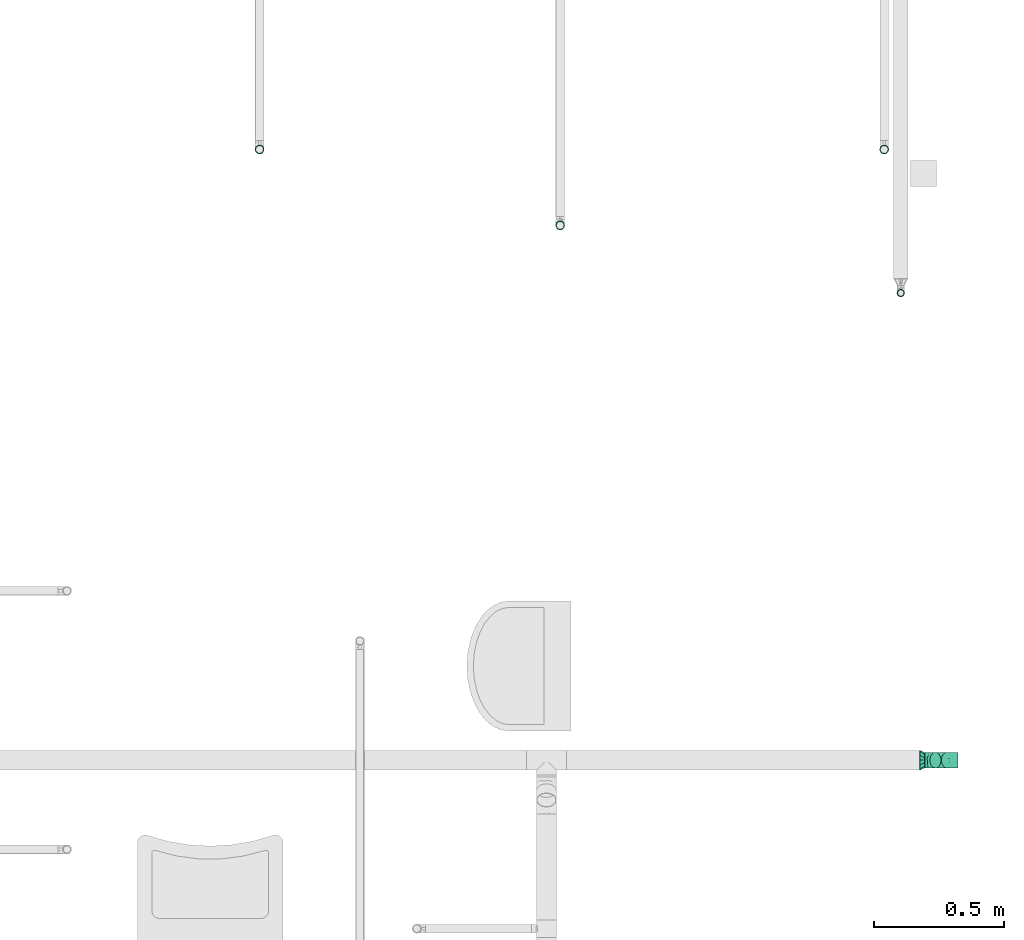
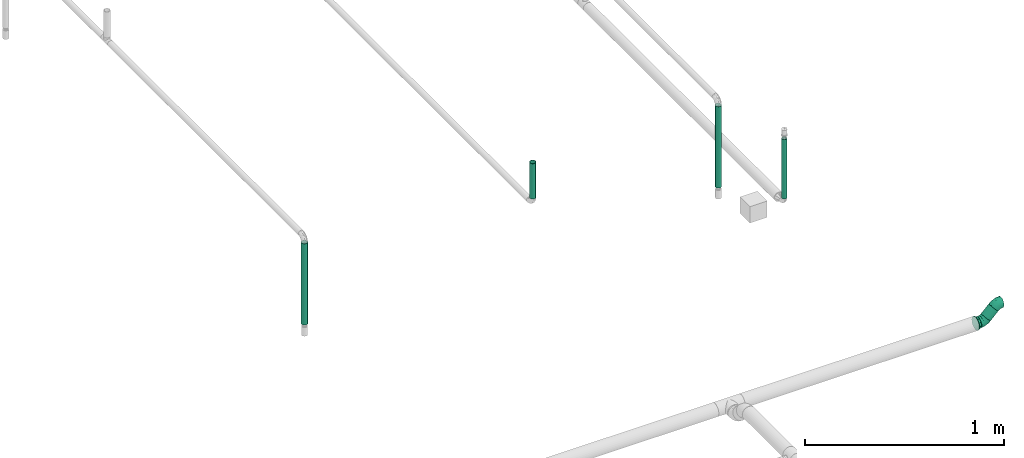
# One storey, part 12 of 95: 5 flow segments, 3 flow fittings.
"""IFC2X3 building model written with IfcOpenShell, lengths in millimetres."""

from ifc_helpers import new_model, entity, si_unit, converted_unit, derived_unit, direction, frame, origin_with_axes, origin_2d_with_axis, place, context, subcontext, project, spatial, hollow_circle, extrude, open_shell, surface_model, source, transform, mapped, type_object, element, save


model = new_model("IFC2X3")

# Units and contexts
model_context = context("Model", 3, precision=0.01, world=frame((0.0, 4.29681676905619e-09, 0.0)), true_north=direction((4.01073788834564e-13, 1.0)))
plan_context = context("Plan", 3, precision=0.01, world=frame((0.0, 4.29681676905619e-09, 0.0)), true_north=direction((4.01073788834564e-13, 1.0)))
body_context = subcontext(model_context, "Body", "Model", "MODEL_VIEW")
ifc_project = project(units=[converted_unit("PLANEANGLEUNIT", "DEGREE", entity("IfcPositiveLengthMeasure", 0.0174532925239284), si_unit("PLANEANGLEUNIT", "RADIAN"), dimensions=[0, 0, 0, 0, 0, 0, 0]), si_unit("AREAUNIT", "SQUARE_METRE"), si_unit("LENGTHUNIT", "METRE", prefix="MILLI"), si_unit("MASSUNIT", "GRAM", prefix="KILO"), si_unit("POWERUNIT", "WATT"), si_unit("PRESSUREUNIT", "PASCAL"), si_unit("FORCEUNIT", "NEWTON", prefix="KILO"), si_unit("ELECTRICVOLTAGEUNIT", "VOLT"), si_unit("ELECTRICCURRENTUNIT", "AMPERE"), si_unit("THERMODYNAMICTEMPERATUREUNIT", "DEGREE_CELSIUS"), si_unit("TIMEUNIT", "SECOND"), si_unit("VOLUMEUNIT", "CUBIC_METRE"), derived_unit("LINEARVELOCITYUNIT", [(si_unit("LENGTHUNIT", "METRE"), 1), (si_unit("TIMEUNIT", "SECOND"), -1)]), derived_unit("VOLUMETRICFLOWRATEUNIT", [(si_unit("VOLUMEUNIT", "CUBIC_METRE"), 1), (si_unit("TIMEUNIT", "SECOND"), -1)]), derived_unit("THERMALTRANSMITTANCEUNIT", [(si_unit("POWERUNIT", "WATT"), 1), (si_unit("THERMODYNAMICTEMPERATUREUNIT", "KELVIN"), -1), (si_unit("AREAUNIT", "SQUARE_METRE"), -1)]), derived_unit("SOUNDPRESSUREUNIT", [(si_unit("PRESSUREUNIT", "PASCAL"), 1)])], contexts=[model_context, plan_context])

# Site, building, storey
site_placement = place(None, frame((0.0, -4.29681676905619e-09, 0.0), z_axis=(0.0, 0.0, 1.0), x_axis=(1.0, 0.0, 0.0)))
site = spatial("IfcSite", under=ifc_project, at=site_placement, CompositionType="ELEMENT")
building_placement = place(site_placement, frame((0.0, 4.29681676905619e-09, 0.0), z_axis=(0.0, 0.0, 1.0), x_axis=(1.0, 0.0, 0.0)))
building = spatial("IfcBuilding", under=site, at=building_placement, Name="mc-building", CompositionType="ELEMENT")
storey_placement = place(building_placement, frame((0.0, 0.0, 210900.0), z_axis=(0.0, 0.0, 1.0), x_axis=(1.0, 0.0, 0.0)))
storey = spatial("IfcBuildingStorey", under=building, at=storey_placement, Name="Nivå F", CompositionType="ELEMENT", Elevation=210900.0)

# Flow fittings
pipe_fitting_type_1 = type_object("IfcPipeFittingType", Name="magi_pipe_fe_elbow_short_001", PredefinedType="BEND")
shared_shape_1 = source(origin_with_axes(), body_context, "Body", "SurfaceModel", [
    surface_model("IfcShellBasedSurfaceModel", [(-25.0185, 15.1, -26.15397), (-25.0185, 7.81634, -29.17096), (-25.0185, 0.0, -30.2), (-25.0185, -29.17096, -7.81634), (-25.0185, -21.35462, 21.35462), (-25.0185, 29.17096, -7.81634), (-25.0185, 26.15397, -15.1), (-25.0185, 21.35462, -21.35462), (-25.0185, -15.1, -26.15397), (-25.0185, -21.35462, -21.35462), (-25.0185, -7.81634, -29.17096), (-25.0185, -26.15397, -15.1), (-25.0185, -30.2, 0.0), (-25.0185, -29.17096, 7.81634), (-25.0185, 30.2, 0.0), (-25.0185, 29.17096, 7.81634), (-25.0185, 26.15397, 15.1), (-25.0185, 7.81634, 29.17096), (-25.0185, 15.1, 26.15397), (-25.0185, 21.35462, 21.35462), (-25.0185, -26.15397, 15.1), (-25.0185, -7.81634, 29.17096), (-25.0185, 0.0, 30.2), (-25.0185, -15.1, 26.15397), (17.69075, 17.69075, -30.2), (12.16377, 23.21773, -29.17096), (7.01344, 28.36806, -26.15397), (32.79075, 2.59075, -21.35462), (-0.8029, 36.1844, -15.1), (-2.93623, 38.31773, -7.81634), (2.59075, 32.79075, -21.35462), (38.31773, -2.93623, -7.81634), (23.21773, 12.16377, -29.17096), (28.36806, 7.01344, -26.15397), (36.1844, -0.8029, -15.1), (38.31773, -2.93623, 7.81634), (39.04538, -3.66387, 0.0), (-3.66387, 39.04538, 0.0), (-2.93623, 38.31773, 7.81634), (-0.8029, 36.1844, 15.1), (12.16377, 23.21773, 29.17096), (2.59075, 32.79075, 21.35462), (7.01344, 28.36806, 26.15397), (32.79075, 2.59075, 21.35462), (36.1844, -0.8029, 15.1), (28.36806, 7.01344, 26.15397), (17.69075, 17.69075, 30.2), (23.21773, 12.16377, 29.17096), (7.69175, -18.56954, 16.82954), (-6.68128, -17.06835, 23.3035), (-9.75195, -23.09728, 17.68326), (-10.0904, -28.23468, 0.0), (-1.56949, -27.11288, 0.0), (-6.446, -27.82271, 5.15694), (23.22791, -9.43658, 17.68326), (-11.96638, -11.07409, 27.60125), (3.10086, -7.48614, 27.22074), (0.89641, 18.1556, 28.1874), (5.45946, 14.29533, 29.76075), (-9.01335, -2.90773, 29.7999), (-2.87243, 6.93466, 30.09388), (-15.13159, 4.18485, 30.01673), (-8.57837, 20.71002, 24.65544), (-13.31812, 25.32715, 19.05823), (16.29207, 0.63094, 27.60125), (-11.60379, 12.56705, 28.23274), (11.65474, -19.76551, 11.90205), (-5.41496, -26.12757, 10.48768), (9.37633, -22.63647, 6.56399), (-12.44104, 30.03533, 12.40746), (24.23164, -15.11562, 5.15694), (27.09992, -12.82994, 0.0), (-12.09644, 32.36015, 6.34538), (22.30394, -14.64603, 10.48768), (8.42948, 4.31732, 29.7999), (16.79352, -7.34476, 23.3035), (-13.46146, 32.49884, 0.0), (5.06901, -12.23767, 24.08282), (9.356, -22.58739, 0.0), (20.2815, -18.0619, 0.0), (-9.01335, -2.90773, -29.7999), (-6.446, -27.82271, -5.15694), (9.37633, -22.63647, -6.56398), (8.42948, 4.31732, -29.7999), (-13.47181, 12.20409, -28.1874), (-13.96874, 6.2479, -29.76075), (-8.49167, 27.32633, -19.05823), (16.79352, -7.34476, -23.3035), (-12.44104, 30.03533, -12.40746), (22.30394, -14.64603, -10.48768), (-14.32861, 31.43556, -6.34538), (-0.68112, 17.09136, -28.23274), (-5.41496, -26.12757, -10.48768), (-8.57837, 20.71002, -24.65544), (-9.75195, -23.09728, -17.68326), (-6.68128, -17.06835, -23.3035), (5.06901, -12.23767, -24.08282), (7.69175, -18.56954, -16.82954), (-11.96638, -11.07409, -27.60125), (16.29207, 0.63094, -27.60125), (3.10086, -7.48614, -27.22074), (24.23164, -15.11562, -5.15694), (7.74051, 13.65879, -30.01673), (5.73518, -22.21747, -11.90205), (23.22791, -9.43658, -17.68326), (-2.87243, 6.93466, -30.09388)], [open_shell([[[0, 1, 2]], [[2, 3, 4]], [[0, 5, 6]], [[7, 0, 6]], [[2, 4, 0]], [[8, 9, 10]], [[9, 2, 10]], [[11, 3, 9]], [[9, 3, 2]], [[12, 13, 3]], [[5, 0, 4]], [[14, 4, 15]], [[16, 15, 17]], [[17, 18, 19]], [[16, 17, 19]], [[17, 15, 4]], [[20, 4, 13]], [[13, 4, 3]], [[21, 22, 23]], [[17, 4, 23]], [[17, 23, 22]], [[14, 5, 4]], [[24, 25, 26]], [[27, 24, 26]], [[28, 29, 26]], [[28, 26, 30]], [[31, 26, 29]], [[32, 27, 33]], [[32, 24, 27]], [[27, 31, 34]], [[26, 31, 27]], [[31, 35, 36]], [[31, 29, 37]], [[37, 38, 39]], [[37, 39, 40]], [[41, 42, 40]], [[41, 40, 39]], [[37, 40, 43]], [[35, 43, 44]], [[35, 37, 43]], [[45, 46, 47]], [[45, 43, 40]], [[46, 45, 40]], [[37, 35, 31]], [[48, 49, 50]], [[51, 52, 53]], [[23, 4, 49]], [[44, 43, 54]], [[55, 49, 56]], [[50, 49, 4]], [[40, 57, 58]], [[21, 23, 55]], [[59, 60, 61]], [[22, 21, 59]], [[19, 62, 63]], [[45, 47, 64]], [[61, 17, 22]], [[18, 65, 62]], [[13, 51, 53]], [[42, 41, 62]], [[66, 67, 68]], [[62, 19, 18]], [[4, 20, 50]], [[16, 63, 69]], [[15, 16, 69]], [[35, 70, 71]], [[72, 14, 15]], [[73, 66, 68]], [[67, 53, 68]], [[18, 17, 65]], [[46, 58, 74]], [[43, 45, 75]], [[39, 38, 69]], [[74, 47, 46]], [[48, 50, 67]], [[43, 75, 54]], [[60, 58, 57]], [[75, 45, 64]], [[20, 67, 50]], [[70, 35, 73]], [[48, 54, 75]], [[61, 65, 17]], [[48, 66, 54]], [[15, 69, 72]], [[20, 13, 67]], [[76, 72, 37]], [[49, 77, 56]], [[38, 72, 69]], [[56, 74, 59]], [[39, 69, 63]], [[56, 64, 74]], [[39, 63, 41]], [[60, 59, 74]], [[40, 42, 57]], [[57, 62, 65]], [[55, 59, 21]], [[16, 19, 63]], [[73, 35, 44]], [[73, 44, 54]], [[77, 48, 75]], [[41, 63, 62]], [[62, 57, 42]], [[60, 57, 65]], [[49, 55, 23]], [[59, 55, 56]], [[74, 64, 47]], [[75, 64, 56]], [[13, 12, 51]], [[68, 52, 78]], [[13, 53, 67]], [[52, 68, 53]], [[70, 68, 79]], [[71, 70, 79]], [[71, 36, 35]], [[68, 70, 73]], [[74, 58, 60]], [[46, 40, 58]], [[59, 61, 22]], [[65, 61, 60]], [[48, 77, 49]], [[75, 56, 77]], [[37, 72, 38]], [[72, 76, 14]], [[54, 66, 73]], [[67, 66, 48]], [[79, 68, 78]], [[10, 2, 80]], [[52, 81, 82]], [[24, 32, 83]], [[84, 85, 1]], [[6, 86, 7]], [[33, 27, 87]], [[88, 86, 6]], [[34, 31, 89]], [[5, 90, 88]], [[26, 25, 91]], [[3, 81, 51]], [[0, 84, 1]], [[81, 3, 92]], [[30, 93, 86]], [[92, 11, 94]], [[94, 9, 95]], [[9, 8, 95]], [[96, 97, 95]], [[3, 11, 92]], [[9, 94, 11]], [[98, 8, 10]], [[99, 83, 32]], [[29, 28, 88]], [[100, 98, 80]], [[14, 76, 90]], [[97, 94, 95]], [[37, 29, 90]], [[100, 80, 83]], [[30, 26, 93]], [[88, 6, 5]], [[28, 86, 88]], [[98, 95, 8]], [[91, 93, 26]], [[85, 80, 2]], [[93, 91, 84]], [[7, 93, 0]], [[31, 71, 101]], [[102, 25, 24]], [[99, 32, 33]], [[103, 89, 82]], [[27, 104, 87]], [[100, 99, 87]], [[27, 34, 104]], [[105, 102, 83]], [[104, 97, 87]], [[105, 83, 80]], [[101, 71, 79]], [[102, 91, 25]], [[105, 85, 84]], [[81, 92, 82]], [[97, 103, 94]], [[87, 96, 100]], [[34, 89, 104]], [[29, 88, 90]], [[97, 104, 89]], [[28, 30, 86]], [[7, 86, 93]], [[93, 84, 0]], [[105, 84, 91]], [[80, 98, 10]], [[95, 98, 100]], [[87, 99, 33]], [[83, 99, 100]], [[51, 81, 52]], [[51, 12, 3]], [[103, 82, 92]], [[101, 82, 89]], [[82, 79, 78]], [[31, 36, 71]], [[82, 101, 79]], [[31, 101, 89]], [[80, 85, 105]], [[2, 1, 85]], [[83, 102, 24]], [[91, 102, 105]], [[97, 96, 87]], [[95, 100, 96]], [[14, 90, 5]], [[90, 76, 37]], [[94, 103, 92]], [[89, 103, 97]], [[52, 82, 78]]])]),
])
for number, where, z_axis, x_axis, name in (
    (1, (536077.5653, 441860.92369, 4310.0), (0.0, -1.0, 0.0), (1.0, 0.0, 0.0), "magi_pipe_fe_elbow_short_001"),
    (2, (536157.5653, 441860.92369, 4390.0), (0.0, 1.0, 0.0), (0.707106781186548, 0.0, 0.707106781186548), "magi_pipe_fe_elbow_short_001"),
):
    element("IfcFlowFitting", number, at=place(storey_placement, frame(where, z_axis=z_axis, x_axis=x_axis)), inside=storey, type_object=pipe_fitting_type_1, Name=name, context=body_context, shape_type="MappedRepresentation", body=[
        mapped(shared_shape_1, transform((0.0, 0.0, 0.0), scale=1.0)),
    ])
pipe_fitting_type_2 = type_object("IfcPipeFittingType", Name="magi_pipe_fe_reducer_centric_short_NOR", PredefinedType="TRANSITION")
shared_shape_2 = source(origin_with_axes(), body_context, "Body", "SurfaceModel", [
    surface_model("IfcShellBasedSurfaceModel", [(-2.0, 9.86101, 36.80177), (-2.0, -38.1, 0.0), (-2.0, 0.0, 38.1), (-2.0, 26.94077, 26.94077), (-2.0, 19.05, 32.99557), (-2.0, 32.99557, 19.05), (-2.0, 36.80177, 9.86101), (-2.0, -9.86101, 36.80177), (-2.0, -26.94077, 26.94077), (-2.0, -19.05, 32.99557), (-2.0, -32.99557, 19.05), (-2.0, -36.80177, 9.86101), (-2.0, 36.80177, -9.86101), (-2.0, -32.99557, -19.05), (-2.0, 9.86101, -36.80177), (-2.0, 32.99557, -19.05), (-2.0, 26.94077, -26.94077), (-2.0, 19.05, -32.99557), (-2.0, -26.94077, -26.94077), (-2.0, -36.80177, -9.86101), (-2.0, -19.05, -32.99557), (-2.0, 0.0, -38.1), (-2.0, -9.86101, -36.80177), (-2.0, 38.1, 0.0), (0.0, 9.86101, -36.80177), (0.0, 19.05, -32.99557), (0.0, 26.94077, -26.94077), (0.0, 36.80177, -9.86101), (0.0, -26.94077, -26.94077), (0.0, 32.99557, -19.05), (0.0, -38.1, 0.0), (0.0, 0.0, -38.1), (0.0, -19.05, -32.99557), (0.0, -9.86101, -36.80177), (0.0, -32.99557, -19.05), (0.0, -36.80177, -9.86101), (0.0, 38.1, 0.0), (0.0, 36.80177, 9.86101), (0.0, 32.99557, 19.05), (0.0, 26.94077, 26.94077), (0.0, 0.0, 38.1), (0.0, 9.86101, 36.80177), (0.0, 19.05, 32.99557), (0.0, -9.86101, 36.80177), (0.0, -32.99557, 19.05), (0.0, -36.80177, 9.86101), (0.0, -26.94077, 26.94077), (0.0, -19.05, 32.99557), (17.8, 7.81634, -29.17096), (17.8, 15.1, -26.15397), (17.8, 21.35462, -21.35462), (17.8, 30.2, 0.0), (17.8, 26.15397, -15.1), (17.8, 29.17096, -7.81634), (17.8, -15.1, -26.15397), (17.8, -29.17096, 7.81634), (17.8, 0.0, -30.2), (17.8, -7.81634, -29.17096), (17.8, -21.35462, -21.35462), (17.8, -29.17096, -7.81634), (17.8, -26.15397, -15.1), (17.8, 29.17096, 7.81634), (17.8, 26.15397, 15.1), (17.8, 21.35462, 21.35462), (17.8, -21.35462, 21.35462), (17.8, 15.1, 26.15397), (17.8, 7.81634, 29.17096), (17.8, 0.0, 30.2), (17.8, -26.15397, 15.1), (17.8, -30.2, 0.0), (17.8, -7.81634, 29.17096), (17.8, -15.1, 26.15397), (15.8, 0.0, 30.2), (15.8, 7.81634, 29.17096), (15.8, 15.1, 26.15397), (15.8, 21.35462, 21.35462), (15.8, 26.15397, 15.1), (15.8, 29.17096, 7.81634), (15.8, -29.17096, 7.81634), (15.8, 30.2, 0.0), (15.8, -7.81634, 29.17096), (15.8, -21.35462, 21.35462), (15.8, -15.1, 26.15397), (15.8, -26.15397, 15.1), (15.8, -30.2, 0.0), (15.8, 29.17096, -7.81634), (15.8, 26.15397, -15.1), (15.8, 21.35462, -21.35462), (15.8, 15.1, -26.15397), (15.8, 7.81634, -29.17096), (15.8, -15.1, -26.15397), (15.8, -29.17096, -7.81634), (15.8, -21.35462, -21.35462), (15.8, -26.15397, -15.1), (15.8, 0.0, -30.2), (15.8, -7.81634, -29.17096), (15.8, -9.33231, 28.72191), (15.8, -24.43231, 17.75111), (15.8, 9.33231, 28.72191), (15.8, 24.43231, 17.75111), (15.8, -9.33231, -28.72191), (15.8, -24.43231, -17.75111), (15.8, 9.33231, -28.72191), (15.8, 24.43231, -17.75111), (15.8, 27.31616, -8.87556), (15.8, 16.88231, -23.23651), (0.0, 35.64327, -9.16863), (0.0, 26.02278, -26.02278), (0.0, -35.64327, -9.16863), (15.8, -16.88231, -23.23651), (15.8, -27.31616, -8.87556), (0.0, -26.02278, -26.02278), (15.8, 0.0, -28.72191), (0.0, 9.525, -35.54778), (0.0, -9.525, -35.54778), (15.8, -27.31616, 8.87556), (15.8, -16.88231, 23.23651), (0.0, -35.64327, 9.16863), (0.0, -26.02278, 26.02278), (0.0, 35.64327, 9.16863), (15.8, 16.88231, 23.23651), (15.8, 27.31616, 8.87556), (0.0, 26.02278, 26.02278), (15.8, 0.0, 28.72191), (0.0, -9.525, 35.54778), (0.0, 9.525, 35.54778)], [open_shell([[[0, 1, 2]], [[3, 0, 4]], [[3, 5, 6]], [[3, 6, 0]], [[1, 0, 6]], [[7, 8, 9]], [[8, 7, 10]], [[10, 1, 11]], [[1, 10, 7]], [[7, 2, 1]], [[6, 12, 1]], [[13, 1, 12]], [[14, 12, 15]], [[16, 17, 14]], [[16, 14, 15]], [[13, 12, 14]], [[14, 18, 13]], [[19, 1, 13]], [[20, 21, 22]], [[20, 18, 14]], [[20, 14, 21]], [[6, 23, 12]], [[24, 25, 26]], [[24, 26, 27]], [[24, 27, 28]], [[27, 26, 29]], [[28, 27, 30]], [[31, 32, 33]], [[31, 24, 32]], [[28, 32, 24]], [[28, 30, 34]], [[34, 30, 35]], [[27, 36, 37]], [[37, 38, 39]], [[37, 39, 40]], [[41, 40, 39]], [[41, 39, 42]], [[37, 40, 43]], [[30, 44, 45]], [[44, 30, 43]], [[46, 43, 47]], [[43, 46, 44]], [[30, 37, 43]], [[37, 30, 27]], [[19, 35, 1]], [[13, 34, 19]], [[32, 18, 20]], [[13, 18, 28]], [[33, 20, 22]], [[19, 34, 35]], [[35, 30, 1]], [[33, 32, 20]], [[28, 18, 32]], [[28, 34, 13]], [[31, 33, 22]], [[22, 21, 31]], [[14, 24, 21]], [[17, 25, 14]], [[29, 16, 15]], [[17, 16, 26]], [[27, 15, 12]], [[17, 26, 25]], [[25, 24, 14]], [[36, 27, 12]], [[29, 15, 27]], [[29, 26, 16]], [[23, 36, 12]], [[21, 24, 31]], [[6, 37, 23]], [[5, 38, 6]], [[42, 3, 4]], [[5, 3, 39]], [[41, 4, 0]], [[6, 38, 37]], [[37, 36, 23]], [[41, 42, 4]], [[39, 3, 42]], [[39, 38, 5]], [[40, 41, 0]], [[0, 2, 40]], [[7, 43, 2]], [[9, 47, 7]], [[44, 8, 10]], [[9, 8, 46]], [[45, 10, 11]], [[9, 46, 47]], [[47, 43, 7]], [[30, 45, 11]], [[44, 10, 45]], [[44, 46, 8]], [[1, 30, 11]], [[2, 43, 40]], [[29, 25, 38]], [[30, 32, 34]], [[30, 31, 32]], [[36, 29, 38]], [[48, 49, 50]], [[48, 50, 51]], [[52, 53, 51]], [[52, 51, 50]], [[54, 48, 55]], [[56, 54, 57]], [[56, 48, 54]], [[58, 59, 60]], [[59, 58, 54]], [[54, 55, 59]], [[55, 48, 51]], [[61, 62, 63]], [[51, 63, 64]], [[65, 66, 67]], [[64, 63, 65]], [[64, 65, 67]], [[55, 64, 68]], [[69, 59, 55]], [[64, 70, 71]], [[55, 51, 64]], [[70, 64, 67]], [[61, 63, 51]], [[72, 73, 74]], [[72, 74, 75]], [[75, 76, 77]], [[72, 75, 78]], [[79, 78, 75]], [[80, 81, 82]], [[80, 72, 81]], [[81, 78, 83]], [[72, 78, 81]], [[78, 79, 84]], [[79, 75, 77]], [[79, 85, 86]], [[79, 86, 87]], [[87, 88, 89]], [[87, 89, 79]], [[89, 90, 84]], [[91, 92, 93]], [[92, 91, 90]], [[90, 94, 95]], [[91, 84, 90]], [[89, 94, 90]], [[84, 79, 89]], [[91, 59, 84]], [[93, 60, 91]], [[54, 92, 90]], [[93, 92, 58]], [[57, 90, 95]], [[91, 60, 59]], [[59, 69, 84]], [[57, 54, 90]], [[58, 92, 54]], [[58, 60, 93]], [[56, 57, 95]], [[95, 94, 56]], [[89, 48, 94]], [[88, 49, 89]], [[52, 87, 86]], [[88, 87, 50]], [[53, 86, 85]], [[88, 50, 49]], [[49, 48, 89]], [[51, 53, 85]], [[52, 86, 53]], [[52, 50, 87]], [[79, 51, 85]], [[94, 48, 56]], [[77, 61, 79]], [[76, 62, 77]], [[65, 75, 74]], [[76, 75, 63]], [[66, 74, 73]], [[77, 62, 61]], [[61, 51, 79]], [[66, 65, 74]], [[63, 75, 65]], [[63, 62, 76]], [[67, 66, 73]], [[73, 72, 67]], [[80, 70, 72]], [[82, 71, 80]], [[68, 81, 83]], [[82, 81, 64]], [[55, 83, 78]], [[82, 64, 71]], [[71, 70, 80]], [[69, 55, 78]], [[68, 83, 55]], [[68, 64, 81]], [[84, 69, 78]], [[72, 70, 67]], [[96, 97, 98]], [[98, 79, 99]], [[79, 98, 97]], [[97, 100, 79]], [[100, 97, 101]], [[102, 103, 79]], [[79, 100, 102]], [[97, 84, 101]], [[40, 42, 38]], [[40, 38, 44]], [[40, 44, 47]], [[44, 38, 30]], [[38, 25, 30]], [[25, 31, 30]], [[29, 104, 103]], [[105, 102, 25]], [[79, 106, 36]], [[107, 103, 105]], [[84, 30, 108]], [[106, 79, 104]], [[32, 100, 109]], [[105, 25, 107]], [[29, 103, 107]], [[29, 106, 104]], [[34, 110, 108]], [[108, 110, 84]], [[101, 34, 111]], [[112, 113, 102]], [[100, 32, 114]], [[113, 112, 31]], [[109, 101, 111]], [[101, 110, 34]], [[32, 109, 111]], [[100, 114, 112]], [[112, 114, 31]], [[113, 25, 102]], [[44, 115, 97]], [[116, 96, 47]], [[84, 117, 30]], [[118, 97, 116]], [[79, 36, 119]], [[117, 84, 115]], [[42, 98, 120]], [[116, 47, 118]], [[44, 97, 118]], [[44, 117, 115]], [[38, 121, 119]], [[119, 121, 79]], [[99, 38, 122]], [[123, 124, 96]], [[98, 42, 125]], [[124, 123, 40]], [[120, 99, 122]], [[99, 121, 38]], [[42, 120, 122]], [[98, 125, 123]], [[123, 125, 40]], [[124, 47, 96]]])]),
])
flow_fitting_placement = place(storey_placement, frame((536036.7468, 441860.92369, 4310.0), z_axis=(0.0, 0.0, 1.0), x_axis=(1.0, 0.0, 0.0)))
element("IfcFlowFitting", 3, at=flow_fitting_placement, inside=storey, type_object=pipe_fitting_type_2, Name="magi_pipe_fe_reducer_centric_short_NOR", context=body_context, shape_type="MappedRepresentation", body=[
    mapped(shared_shape_2, transform((0.0, 0.0, 0.0), scale=1.0)),
])

# Flow segments
pipe_segment_type_1 = type_object("IfcPipeSegmentType", Name="Stålrør normaltykke", PredefinedType="RIGIDSEGMENT")
shared_shape_3 = source(origin_with_axes(), body_context, "Body", "SweptSolid", [
    extrude(hollow_circle(Radius=30.1, WallThickness=2.0, at=origin_2d_with_axis()), frame((0.0, 0.0, 0.0), z_axis=(1.0, 0.0, 0.0), x_axis=(0.0, 1.0, 0.0)), (0.0, 0.0, 1.0), 63.1),
])
flow_segment_1_placement = place(storey_placement, frame((536095.25605, 441860.92369, 4327.69075000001), z_axis=(-0.707106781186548, 0.0, 0.707106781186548), x_axis=(0.707106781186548, 0.0, 0.707106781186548)))
element("IfcFlowSegment", 4, at=flow_segment_1_placement, inside=storey, type_object=pipe_segment_type_1, Name="Stålrør normaltykke", context=body_context, shape_type="MappedRepresentation", body=[
    mapped(shared_shape_3, transform((0.0, 0.0, 0.0), scale=1.0)),
])
pipe_segment_type_2 = type_object("IfcPipeSegmentType", Name="SSt", PredefinedType="RIGIDSEGMENT")
shared_shape_4 = source(origin_with_axes(), body_context, "Body", "SweptSolid", [
    extrude(hollow_circle(Radius=14.0, WallThickness=2.0, at=origin_2d_with_axis()), frame((0.0, 0.0, 0.0), z_axis=(1.0, 0.0, 0.0), x_axis=(0.0, 1.0, 0.0)), (0.0, 0.0, 1.0), 365.0),
])
flow_segment_2_placement = place(storey_placement, frame((535962.24677, 443656.17841, 4018.42676999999), z_axis=(1.0, 0.0, 0.0), x_axis=(0.0, 0.0, 1.0)))
element("IfcFlowSegment", 5, at=flow_segment_2_placement, inside=storey, type_object=pipe_segment_type_2, Name="SSt", context=body_context, shape_type="MappedRepresentation", body=[
    mapped(shared_shape_4, transform((0.0, 0.0, 0.0), scale=1.0)),
])
shared_shape_5 = source(origin_with_axes(), body_context, "Body", "SweptSolid", [
    extrude(hollow_circle(Radius=16.9, WallThickness=2.0, at=origin_2d_with_axis()), frame((0.0, 0.0, 0.0), z_axis=(1.0, 0.0, 0.0), x_axis=(0.0, 1.0, 0.0)), (0.0, 0.0, 1.0), 215.9),
])
flow_segment_3_placement = place(storey_placement, frame((534653.43639, 443915.88295, 4321.78253999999), z_axis=(0.0, 1.0, 0.0), x_axis=(0.0, 0.0, 1.0)))
element("IfcFlowSegment", 6, at=flow_segment_3_placement, inside=storey, type_object=pipe_segment_type_1, Name="Stålrør normaltykke", context=body_context, shape_type="MappedRepresentation", body=[
    mapped(shared_shape_5, transform((0.0, 0.0, 0.0), scale=1.0)),
])
shared_shape_6 = source(origin_with_axes(), body_context, "Body", "SweptSolid", [
    extrude(hollow_circle(Radius=16.9, WallThickness=2.0, at=origin_2d_with_axis()), frame((0.0, 0.0, 0.0), z_axis=(1.0, 0.0, 0.0), x_axis=(0.0, 1.0, 0.0)), (0.0, 0.0, 1.0), 499.1),
])
for number, where, z_axis, x_axis in (
    (7, (533498.68266, 444207.85, 3775.348), (-1.0, 0.0, 0.0), (0.0, 0.0, 1.0)),
    (8, (535898.68266, 444207.85, 3775.348), (-1.0, 0.0, 0.0), (0.0, 0.0, 1.0)),
):
    element("IfcFlowSegment", number, at=place(storey_placement, frame(where, z_axis=z_axis, x_axis=x_axis)), inside=storey, type_object=pipe_segment_type_1, Name="Stålrør normaltykke", context=body_context, shape_type="MappedRepresentation", body=[
        mapped(shared_shape_6, transform((0.0, 0.0, 0.0), scale=1.0)),
    ])

save(model, "model.ifc")
